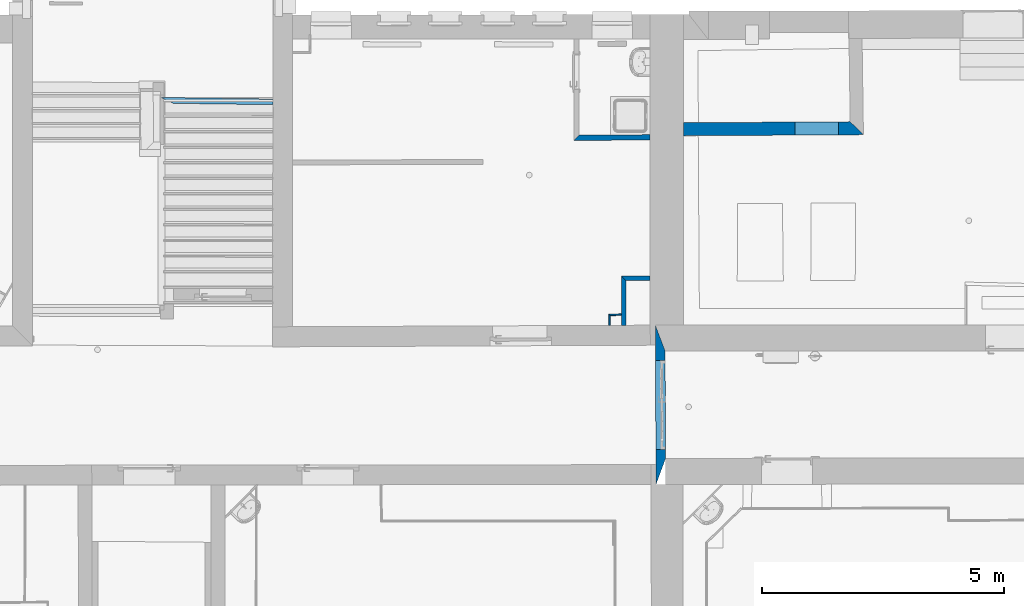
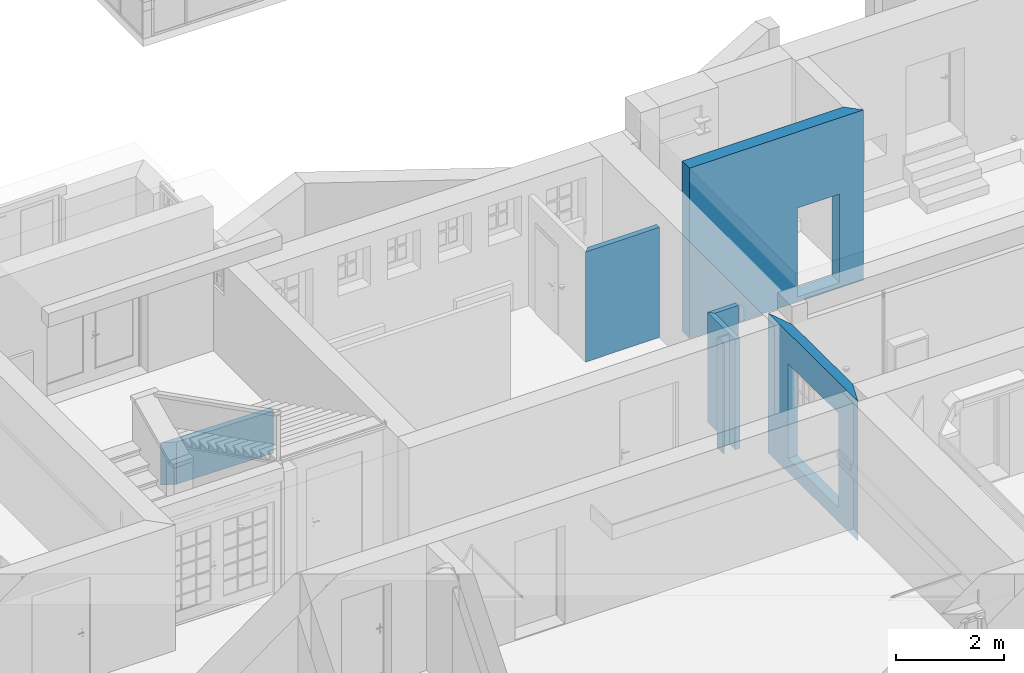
# One storey, part 39 of 196: 8 walls, 2 openings.
"""IFC2X3 building model written with IfcOpenShell, lengths in metres."""

from ifc_helpers import new_model, entity, si_unit, converted_unit, derived_unit, money_unit, direction, frame, origin_with_axes, origin_2d_with_axis, place, context, subcontext, project, spatial, polyline, rectangle, outline, extrude, material, layer, layer_set, layer_usage, type_object, element, save


model = new_model("IFC2X3")

# Units and contexts
model_context = context("Model", 3, precision=1e-05, world=origin_with_axes(), true_north=direction((0.0, 1.0)))
body_context = subcontext(model_context, "Body", "Model", "MODEL_VIEW")
ifc_project = project(units=[si_unit("LENGTHUNIT", "METRE"), si_unit("AREAUNIT", "SQUARE_METRE"), si_unit("VOLUMEUNIT", "CUBIC_METRE"), converted_unit("PLANEANGLEUNIT", "DEGREE", entity("IfcPlaneAngleMeasure", 0.0174532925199), si_unit("PLANEANGLEUNIT", "RADIAN"), dimensions=[0, 0, 0, 0, 0, 0, 0]), money_unit("EUR"), converted_unit("TIMEUNIT", "Year", entity("IfcTimeMeasure", 31556926.0), si_unit("TIMEUNIT", "SECOND"), dimensions=[0, 0, 1, 0, 0, 0, 0]), si_unit("MASSUNIT", "GRAM", prefix="KILO"), si_unit("THERMODYNAMICTEMPERATUREUNIT", "DEGREE_CELSIUS"), si_unit("LUMINOUSINTENSITYUNIT", "LUMEN"), si_unit("ENERGYUNIT", "JOULE", prefix="MEGA"), derived_unit("THERMALCONDUCTANCEUNIT", [(si_unit("POWERUNIT", "WATT"), 1), (si_unit("LENGTHUNIT", "METRE"), -1), (si_unit("THERMODYNAMICTEMPERATUREUNIT", "KELVIN"), -1)]), derived_unit("SPECIFICHEATCAPACITYUNIT", [(si_unit("ENERGYUNIT", "JOULE"), 1), (si_unit("MASSUNIT", "GRAM", prefix="KILO"), -1), (si_unit("THERMODYNAMICTEMPERATUREUNIT", "KELVIN"), -1)]), derived_unit("MASSDENSITYUNIT", [(si_unit("MASSUNIT", "GRAM", prefix="KILO"), 1), (si_unit("VOLUMEUNIT", "CUBIC_METRE"), -1)])], contexts=[model_context])

# Site, building, storey
site_placement = place(None, origin_with_axes())
site = spatial("IfcSite", under=ifc_project, at=site_placement, Name="Gelände", CompositionType="ELEMENT")
building_placement = place(site_placement, origin_with_axes())
building = spatial("IfcBuilding", under=site, at=building_placement, Name="Gebäude", CompositionType="ELEMENT")
storey_placement = place(building_placement, frame((0.0, 0.0, -3.0), z_axis=(0.0, 0.0, 1.0), x_axis=(1.0, 0.0, 0.0)))
storey = spatial("IfcBuildingStorey", under=building, at=storey_placement, Name="KELLERGESCHOSS", CompositionType="ELEMENT", Elevation=-3.0)

# Wall, opening
ifc_material_1 = material(Name="05_ALLGEMEIN - TRAGENDE BAUTEILE")
ifc_layer_1 = layer(ifc_material_1, 0.2, ventilated="UNKNOWN")
ifc_layer_set_1 = layer_set([ifc_layer_1], Name="05_ALLGEMEIN - TRAGENDE BAUTEILE 0.2")
ifc_layer_usage_1 = layer_usage(ifc_layer_set_1, "AXIS2", "NEGATIVE", 0.2)
wall_type_1 = type_object("IfcWallType", Name="05_ALLGEMEIN - TRAGENDE BAUTEILE 200", PredefinedType="ELEMENTEDWALL")
wall_1_placement = place(storey_placement, frame((3.24785609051, 16.9396672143, -0.36), z_axis=(0.0, 0.0, 1.0), x_axis=(-0.00429713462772, 0.999990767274, 0.0)))
wall_1 = element("IfcWallStandardCase", 1, at=wall_1_placement, inside=storey, type_object=wall_type_1, material=ifc_layer_usage_1, Name="Wand-035", ObjectType="ELEMENTEDWALL", context=body_context, shape_type="SweptSolid", body=[
    extrude(outline(polyline([(0.0, 0.0), (2.21946028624, 0.0), (2.75804394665, 0.2), (-0.539465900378, 0.2), (0.0, 0.0)])), origin_with_axes(), (0.0, 0.0, 1.0), 3.15),
])
opening_1_placement = place(wall_1_placement, frame((1.10589035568, 0.0, 0.318599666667), z_axis=(0.0, 0.0, 1.0), x_axis=(1.0, 0.0, 0.0)))
element("IfcOpeningElement", 2, at=opening_1_placement, cuts=wall_1, Name="Tür-023", context=body_context, shape_type="SweptSolid", body=[
    extrude(rectangle(XDim=1.84201630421, YDim=2.131719, at=origin_2d_with_axis()), frame((0.0, 0.00753553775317, 1.0658595), z_axis=(0.0, -1.0, 0.0), x_axis=(1.0, 0.0, 0.0)), (0.0, 0.0, -1.0), 0.392464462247),
    extrude(rectangle(XDim=1.84201630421, YDim=2.131719, at=origin_2d_with_axis()), frame((0.0, 0.00753553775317, 1.0658595), z_axis=(0.0, 1.0, 0.0), x_axis=(1.0, 0.0, 0.0)), (0.0, 0.0, -1.0), 0.207535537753),
])

# Walls
ifc_layer_2 = layer(ifc_material_1, 0.1, ventilated="UNKNOWN")
ifc_layer_set_2 = layer_set([ifc_layer_2], Name="05_ALLGEMEIN - TRAGENDE BAUTEILE 0.1")
ifc_layer_usage_2 = layer_usage(ifc_layer_set_2, "AXIS2", "NEGATIVE", 0.0)
wall_type_2 = type_object("IfcWallType", Name="05_ALLGEMEIN - TRAGENDE BAUTEILE 100", PredefinedType="ELEMENTEDWALL")
wall_2_placement = place(storey_placement, frame((2.3322688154, 19.2764690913, -0.04), z_axis=(0.0, 0.0, 1.0), x_axis=(-0.000579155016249, 0.99999983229, 0.0)))
element("IfcWallStandardCase", 3, at=wall_2_placement, inside=storey, type_object=wall_type_2, material=ifc_layer_usage_2, Name="Wand-039", ObjectType="ELEMENTEDWALL", context=body_context, shape_type="SweptSolid", body=[
    extrude(outline(polyline([(0.414993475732, -0.1), (1.33715081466, -0.1), (1.43710519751, 0.0), (0.41461846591, 0.0), (0.414993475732, -0.1)])), origin_with_axes(), (0.0, 0.0, 1.0), 2.48),
])
ifc_layer_usage_3 = layer_usage(ifc_layer_set_2, "AXIS2", "NEGATIVE", 0.0)
wall_3_placement = place(storey_placement, frame((2.33143650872, 20.7135740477, -0.04), z_axis=(0.0, 0.0, 1.0), x_axis=(0.999999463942, 0.0010354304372, 0.0)))
element("IfcWallStandardCase", 4, at=wall_3_placement, inside=storey, type_object=wall_type_2, material=ifc_layer_usage_3, Name="Wand-040", ObjectType="ELEMENTEDWALL", context=body_context, shape_type="SweptSolid", body=[
    extrude(outline(polyline([(0.0999543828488, -0.1), (0.598160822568, -0.1), (0.598160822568, 0.0), (0.0, 0.0), (0.0999543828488, -0.1)])), origin_with_axes(), (0.0, 0.0, 1.0), 2.48),
])
ifc_layer_3 = layer(ifc_material_1, 0.12, ventilated="UNKNOWN")
ifc_layer_set_3 = layer_set([ifc_layer_3], Name="05_ALLGEMEIN - TRAGENDE BAUTEILE 0.12")
ifc_layer_usage_4 = layer_usage(ifc_layer_set_3, "AXIS2", "NEGATIVE", 0.0)
wall_type_3 = type_object("IfcWallType", Name="05_ALLGEMEIN - TRAGENDE BAUTEILE 120", PredefinedType="ELEMENTEDWALL")
wall_4_placement = place(storey_placement, frame((-4.46314722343, 24.2456002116, -0.36), z_axis=(0.0, 0.0, 1.0), x_axis=(-0.999909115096, 0.0134818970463, 0.0)))
element("IfcWallStandardCase", 5, at=wall_4_placement, inside=storey, type_object=wall_type_3, material=ifc_layer_usage_4, Name="Wand-038", ObjectType="ELEMENTEDWALL", context=body_context, shape_type="SweptSolid", body=[
    extrude(outline(polyline([(0.411599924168, -0.12), (2.73158531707, -0.12), (2.46636010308, 0.0), (0.41003486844, 0.0), (0.411599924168, -0.12)])), origin_with_axes(), (0.0, 0.0, 1.0), 0.954859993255),
])
ifc_material_2 = material(Name="43_Gipskarton")
ifc_layer_4 = layer(ifc_material_2, 0.03, ventilated="UNKNOWN")
ifc_layer_set_4 = layer_set([ifc_layer_4], Name="43_Gipskarton 0.03")
ifc_layer_usage_5 = layer_usage(ifc_layer_set_4, "AXIS2", "NEGATIVE", 0.0)
wall_type_4 = type_object("IfcWallType", Name="43_Gipskarton 30", PredefinedType="ELEMENTEDWALL")
wall_5_placement = place(storey_placement, frame((2.07175333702, 19.2753412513, -0.04), z_axis=(0.0, 0.0, 1.0), x_axis=(0.00616804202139, 0.999980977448, 0.0)))
element("IfcWallStandardCase", 6, at=wall_5_placement, inside=storey, type_object=wall_type_4, material=ifc_layer_usage_5, Name="Wand-038", ObjectType="ELEMENTEDWALL", context=body_context, shape_type="SweptSolid", body=[
    extrude(outline(polyline([(0.414953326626, -0.03), (0.616384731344, -0.03), (0.645636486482, 0.0), (0.414638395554, 0.0), (0.414953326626, -0.03)])), origin_with_axes(), (0.0, 0.0, 1.0), 2.48),
])
ifc_layer_usage_6 = layer_usage(ifc_layer_set_4, "AXIS2", "NEGATIVE", 0.0)
wall_6_placement = place(storey_placement, frame((2.07573565, 19.9209654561, -0.04), z_axis=(0.0, 0.0, 1.0), x_axis=(0.999817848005, 0.0190858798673, 0.0)))
element("IfcWallStandardCase", 7, at=wall_6_placement, inside=storey, type_object=wall_type_4, material=ifc_layer_usage_6, Name="Wand-039", ObjectType="ELEMENTEDWALL", context=body_context, shape_type="SweptSolid", body=[
    extrude(outline(polyline([(0.0292517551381, -0.03), (0.255648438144, -0.03), (0.256203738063, 0.0), (0.0, 0.0), (0.0292517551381, -0.03)])), origin_with_axes(), (0.0, 0.0, 1.0), 2.48),
])

# Wall, opening
ifc_layer_5 = layer(ifc_material_1, 0.27, ventilated="UNKNOWN")
ifc_layer_set_5 = layer_set([ifc_layer_5], Name="05_ALLGEMEIN - TRAGENDE BAUTEILE 0.27")
ifc_layer_usage_7 = layer_usage(ifc_layer_set_5, "AXIS2", "NEGATIVE", 0.27)
wall_type_5 = type_object("IfcWallType", Name="05_ALLGEMEIN - TRAGENDE BAUTEILE 270", PredefinedType="ELEMENTEDWALL")
wall_7_placement = place(storey_placement, frame((3.61659925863, 23.6097237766, -0.36), z_axis=(0.0, 0.0, 1.0), x_axis=(0.999983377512, 0.00576582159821, 0.0)))
wall_7 = element("IfcWallStandardCase", 8, at=wall_7_placement, inside=storey, type_object=wall_type_5, material=ifc_layer_usage_7, Name="Wand-039", ObjectType="ELEMENTEDWALL", context=body_context, shape_type="SweptSolid", body=[
    extrude(outline(polyline([(0.0, 0.0), (3.72160927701, 0.0), (3.44932034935, 0.27), (0.00127722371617, 0.27), (0.0, 0.0)])), origin_with_axes(), (0.0, 0.0, 1.0), 3.835),
])
opening_2_placement = place(wall_7_placement, frame((2.75964103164, 0.0, 0.12), z_axis=(0.0, 0.0, 1.0), x_axis=(1.0, 0.0, 0.0)))
element("IfcOpeningElement", 9, at=opening_2_placement, cuts=wall_7, Name="Tür-023", context=body_context, shape_type="SweptSolid", body=[
    extrude(rectangle(XDim=0.9, YDim=2.0, at=origin_2d_with_axis()), frame((0.0, -0.27, 1.0), z_axis=(0.0, 1.0, 0.0), x_axis=(-1.0, 0.0, 0.0)), (0.0, 0.0, 1.0), 0.81),
])

# Wall
ifc_layer_6 = layer(ifc_material_2, 0.11, ventilated="UNKNOWN")
ifc_layer_set_6 = layer_set([ifc_layer_6], Name="43_Gipskarton 0.11")
ifc_layer_usage_8 = layer_usage(ifc_layer_set_6, "AXIS2", "NEGATIVE", 0.0)
wall_type_6 = type_object("IfcWallType", Name="43_Gipskarton 110", PredefinedType="ELEMENTEDWALL")
wall_8_placement = place(storey_placement, frame((3.61668633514, 23.5256269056, -0.04), z_axis=(0.0, 0.0, 1.0), x_axis=(-0.999983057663, -0.00582102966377, 0.0)))
element("IfcWallStandardCase", 10, at=wall_8_placement, inside=storey, type_object=wall_type_6, material=ifc_layer_usage_8, Name="Wand-038", ObjectType="ELEMENTEDWALL", context=body_context, shape_type="SweptSolid", body=[
    extrude(outline(polyline([(0.68948147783, -0.11), (2.1559890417, -0.11), (2.26658855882, 0.0), (0.69000790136, 0.0), (0.68948147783, -0.11)])), origin_with_axes(), (0.0, 0.0, 1.0), 2.48),
])

save(model, "model.ifc")
